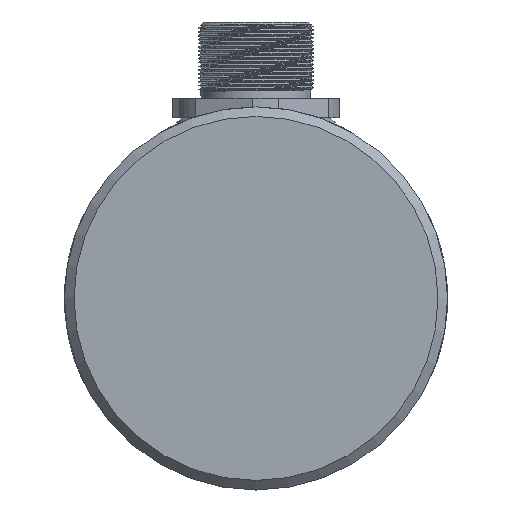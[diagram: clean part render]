
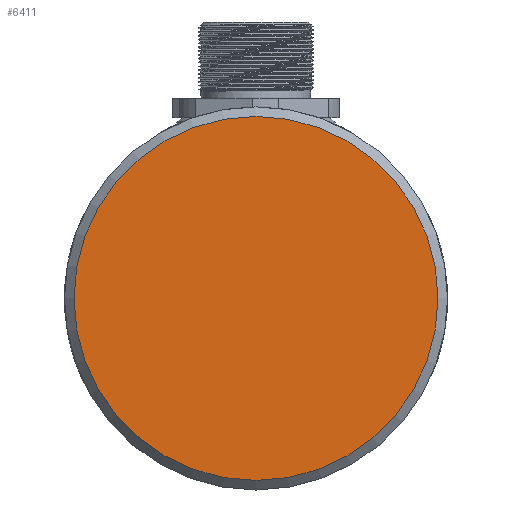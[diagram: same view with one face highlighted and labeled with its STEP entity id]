
A CAD part, left-side view. The second image highlights one B-rep face of the part: STEP entity #6411.
In plain terms, the highlighted planar face has unit normal (-1, 0, 0).
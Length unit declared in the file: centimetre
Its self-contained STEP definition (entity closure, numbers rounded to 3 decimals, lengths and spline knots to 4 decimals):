
#799=PLANE('',#6813);
#2317=VERTEX_POINT('',#8784);
#2826=CIRCLE('',#6812,1.9);
#2999=EDGE_CURVE('',#2317,#2317,#2826,.T.);
#3936=ORIENTED_EDGE('',*,*,#2999,.F.);
#5509=EDGE_LOOP('',(#3936));
#5965=FACE_BOUND('',#5509,.T.);
#6411=ADVANCED_FACE('',(#5965),#799,.T.);
#6812=AXIS2_PLACEMENT_3D('',#8783,#7330,#7331);
#6813=AXIS2_PLACEMENT_3D('',#8785,#7332,$);
#7330=DIRECTION('',(1.,0.,0.));
#7331=DIRECTION('',(0.,0.,1.9));
#7332=DIRECTION('',(-1.,0.,0.));
#8783=CARTESIAN_POINT('',(0.,0.,0.));
#8784=CARTESIAN_POINT('',(0.,0.,-1.9));
#8785=CARTESIAN_POINT('',(0.,0.,-0.625));
